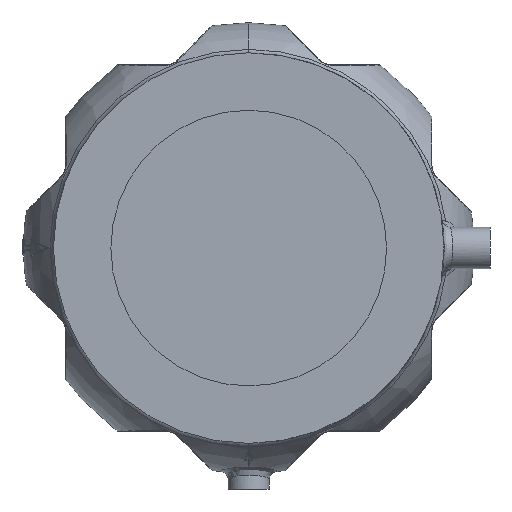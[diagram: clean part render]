
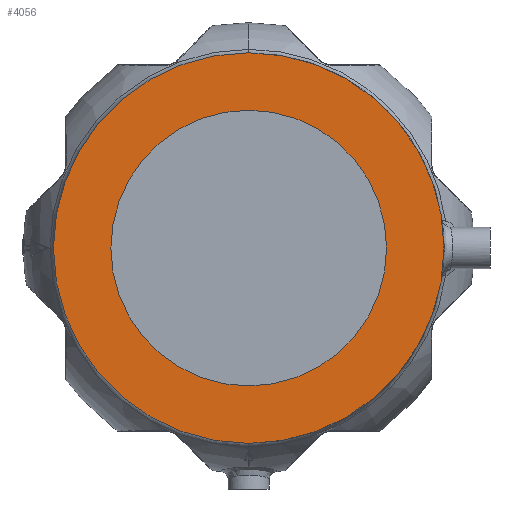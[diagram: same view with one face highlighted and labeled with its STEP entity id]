
A CAD part, front view. The second image highlights one B-rep face of the part: STEP entity #4056.
In plain terms, the highlighted planar face has unit normal (0, -1, 0).
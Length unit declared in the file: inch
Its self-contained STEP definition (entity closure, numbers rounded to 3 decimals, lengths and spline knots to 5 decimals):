
#1352 = CIRCLE ( 'NONE', #26566, 4.25 ) ;
#1420 = VERTEX_POINT ( 'NONE', #7657 ) ;
#1979 = FACE_OUTER_BOUND ( 'NONE', #22554, .T. ) ;
#2330 = DIRECTION ( 'NONE',  ( 0., 1., 0. ) ) ;
#3019 = DIRECTION ( 'NONE',  ( 0., 0., -1. ) ) ;
#3088 = CARTESIAN_POINT ( 'NONE',  ( -3., -2.805, 0. ) ) ;
#4056 = ADVANCED_FACE ( 'NONE', ( #1979, #18250 ), #15526, .T. ) ;
#4254 = CARTESIAN_POINT ( 'NONE',  ( -4.375, -2.805, 0. ) ) ;
#5453 = DIRECTION ( 'NONE',  ( 0., 1., 0. ) ) ;
#6644 = CIRCLE ( 'NONE', #25069, 4.25 ) ;
#7657 = CARTESIAN_POINT ( 'NONE',  ( 0., -2.805, -4.25 ) ) ;
#8932 = DIRECTION ( 'NONE',  ( 0., 1., 0. ) ) ;
#9906 = ORIENTED_EDGE ( 'NONE', *, *, #29384, .F. ) ;
#10245 = CARTESIAN_POINT ( 'NONE',  ( 0., -2.805, 0. ) ) ;
#10396 = EDGE_CURVE ( 'NONE', #28827, #23542, #25524, .T. ) ;
#11095 = DIRECTION ( 'NONE',  ( 0., -1., 0. ) ) ;
#11290 = DIRECTION ( 'NONE',  ( 0., 0., -1. ) ) ;
#12944 = AXIS2_PLACEMENT_3D ( 'NONE', #10245, #26490, #14513 ) ;
#13156 = EDGE_CURVE ( 'NONE', #1420, #25204, #1352, .T. ) ;
#14186 = CARTESIAN_POINT ( 'NONE',  ( 0., -2.805, 0. ) ) ;
#14306 = ORIENTED_EDGE ( 'NONE', *, *, #10396, .T. ) ;
#14513 = DIRECTION ( 'NONE',  ( 0., 0., -1. ) ) ;
#14837 = ORIENTED_EDGE ( 'NONE', *, *, #13156, .F. ) ;
#15526 = PLANE ( 'NONE',  #28378 ) ;
#15949 = CARTESIAN_POINT ( 'NONE',  ( 0., -2.805, 0. ) ) ;
#18250 = FACE_BOUND ( 'NONE', #29880, .T. ) ;
#18402 = CARTESIAN_POINT ( 'NONE',  ( 0., -2.805, 4.25 ) ) ;
#22154 = CARTESIAN_POINT ( 'NONE',  ( 0., -2.805, 0. ) ) ;
#22554 = EDGE_LOOP ( 'NONE', ( #9906, #14837 ) ) ;
#23542 = VERTEX_POINT ( 'NONE', #26989 ) ;
#23861 = AXIS2_PLACEMENT_3D ( 'NONE', #14186, #2330, #11290 ) ;
#24057 = ORIENTED_EDGE ( 'NONE', *, *, #28553, .T. ) ;
#25069 = AXIS2_PLACEMENT_3D ( 'NONE', #15949, #8932, #27619 ) ;
#25204 = VERTEX_POINT ( 'NONE', #18402 ) ;
#25524 = CIRCLE ( 'NONE', #12944, 3. ) ;
#26490 = DIRECTION ( 'NONE',  ( 0., 1., 0. ) ) ;
#26566 = AXIS2_PLACEMENT_3D ( 'NONE', #22154, #5453, #3019 ) ;
#26989 = CARTESIAN_POINT ( 'NONE',  ( 3., -2.805, 0. ) ) ;
#27040 = DIRECTION ( 'NONE',  ( 0., 0., -1. ) ) ;
#27619 = DIRECTION ( 'NONE',  ( 0., 0., -1. ) ) ;
#28378 = AXIS2_PLACEMENT_3D ( 'NONE', #4254, #11095, #27040 ) ;
#28553 = EDGE_CURVE ( 'NONE', #23542, #28827, #28691, .T. ) ;
#28691 = CIRCLE ( 'NONE', #23861, 3. ) ;
#28827 = VERTEX_POINT ( 'NONE', #3088 ) ;
#29384 = EDGE_CURVE ( 'NONE', #25204, #1420, #6644, .T. ) ;
#29880 = EDGE_LOOP ( 'NONE', ( #14306, #24057 ) ) ;
